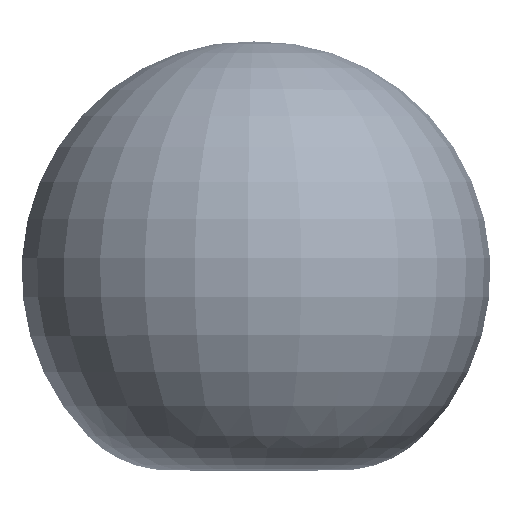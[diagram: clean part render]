
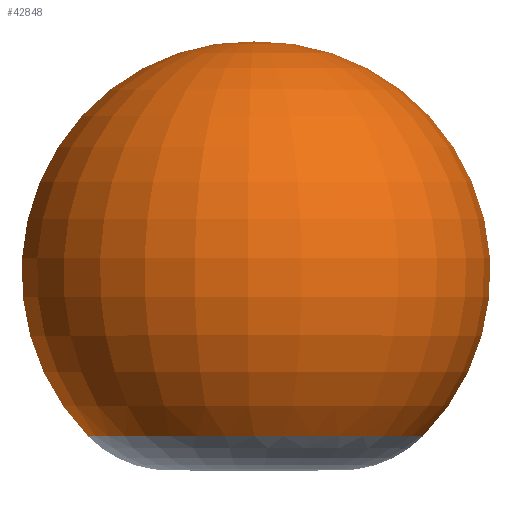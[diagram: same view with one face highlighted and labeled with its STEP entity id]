
A CAD part, top view. The second image highlights one B-rep face of the part: STEP entity #42848.
In plain terms, the highlighted toroidal (fillet/blend) face has major radius 25 mm and minor radius 1186.03 mm.
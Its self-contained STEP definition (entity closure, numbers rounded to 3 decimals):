
#42848 = ADVANCED_FACE ( 'NONE', ( #161794 ), #433927, .T. ) ;
#63079 = CARTESIAN_POINT ( 'NONE',  ( 0., 1665.765, 0. ) ) ;
#63450 = CARTESIAN_POINT ( 'NONE',  ( -850.528, -358.649, -149.971 ) ) ;
#63584 = CARTESIAN_POINT ( 'NONE',  ( -850.528, -358.649, 149.971 ) ) ;
#161649 = DIRECTION ( 'NONE',  ( 0., 1., 0. ) ) ;
#161794 = FACE_OUTER_BOUND ( 'NONE', #622565, .T. ) ;
#161813 = CARTESIAN_POINT ( 'NONE',  ( 0., 480., 0. ) ) ;
#161820 = DIRECTION ( 'NONE',  ( -1., 0., 0. ) ) ;
#373098 = VERTEX_POINT ( 'NONE', #63079 ) ;
#373158 = VERTEX_POINT ( 'NONE', #63450 ) ;
#373194 = VERTEX_POINT ( 'NONE', #63584 ) ;
#433927 = TOROIDAL_SURFACE ( 'NONE', #434281, 25., 1186.029 ) ;
#434281 = AXIS2_PLACEMENT_3D ( 'NONE', #161813, #161649, #161820 ) ;
#533973 = EDGE_CURVE ( 'NONE', #373194, #373158, #952027, .T. ) ;
#534010 = EDGE_CURVE ( 'NONE', #373158, #373098, #952117, .T. ) ;
#534098 = EDGE_CURVE ( 'NONE', #373194, #373098, #952326, .T. ) ;
#622565 = EDGE_LOOP ( 'NONE', ( #977181, #977186, #977190 ) ) ;
#949455 = CARTESIAN_POINT ( 'NONE',  ( 0., -358.649, 0. ) ) ;
#949465 = DIRECTION ( 'NONE',  ( 0., 1., 0. ) ) ;
#949475 = DIRECTION ( 'NONE',  ( -1., 0., 0. ) ) ;
#952027 = CIRCLE ( 'NONE', #952080, 863.649 ) ;
#952080 = AXIS2_PLACEMENT_3D ( 'NONE', #949455, #949465, #949475 ) ;
#952117 = CIRCLE ( 'NONE', #952158, 1186.029 ) ;
#952158 = AXIS2_PLACEMENT_3D ( 'NONE', #1009225, #1009230, #1009234 ) ;
#952326 = CIRCLE ( 'NONE', #952353, 1186.029 ) ;
#952353 = AXIS2_PLACEMENT_3D ( 'NONE', #1009793, #1009797, #1009800 ) ;
#977181 = ORIENTED_EDGE ( 'NONE', *, *, #534010, .T. ) ;
#977186 = ORIENTED_EDGE ( 'NONE', *, *, #534098, .F. ) ;
#977190 = ORIENTED_EDGE ( 'NONE', *, *, #533973, .T. ) ;
#1009225 = CARTESIAN_POINT ( 'NONE',  ( -24.62, 480., -4.341 ) ) ;
#1009230 = DIRECTION ( 'NONE',  ( 0.174, 0., -0.985 ) ) ;
#1009234 = DIRECTION ( 'NONE',  ( -0.985, 0., -0.174 ) ) ;
#1009793 = CARTESIAN_POINT ( 'NONE',  ( -24.62, 480., 4.341 ) ) ;
#1009797 = DIRECTION ( 'NONE',  ( -0.174, 0., -0.985 ) ) ;
#1009800 = DIRECTION ( 'NONE',  ( -0.985, 0., 0.174 ) ) ;
